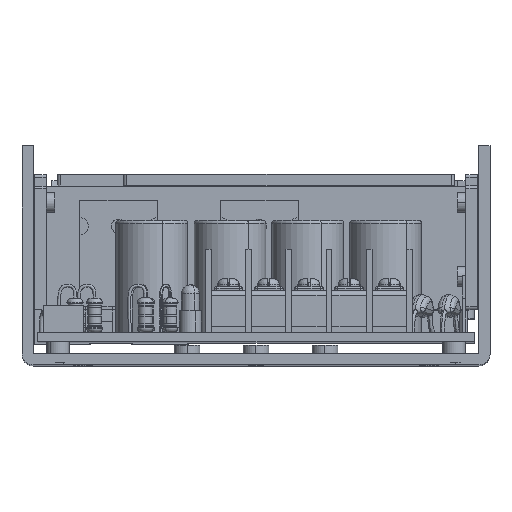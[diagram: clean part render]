
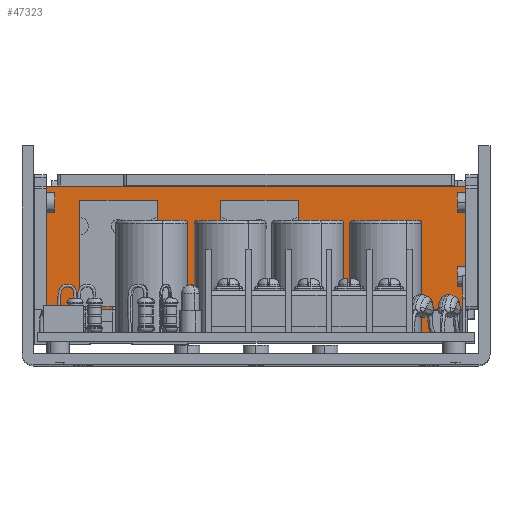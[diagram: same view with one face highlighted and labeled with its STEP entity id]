
A CAD part, top view. The second image highlights one B-rep face of the part: STEP entity #47323.
In plain terms, the highlighted planar face has unit normal (0, 0, 1).
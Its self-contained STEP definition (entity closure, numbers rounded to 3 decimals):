
#10051 = CARTESIAN_POINT ( 'NONE',  ( 7.721, 10.638, 31.2 ) ) ;
#10052 = DIRECTION ( 'NONE',  ( 0., 0., -1. ) ) ;
#10053 = DIRECTION ( 'NONE',  ( 0., 1., 0. ) ) ;
#10061 = CARTESIAN_POINT ( 'NONE',  ( -16.779, 10.638, 31.2 ) ) ;
#10062 = DIRECTION ( 'NONE',  ( 0., 0., -1. ) ) ;
#10063 = DIRECTION ( 'NONE',  ( 0., 1., 0. ) ) ;
#10142 = CARTESIAN_POINT ( 'NONE',  ( 43.621, 19.638, 31.2 ) ) ;
#10143 = DIRECTION ( 'NONE',  ( 0., -1., 0. ) ) ;
#10158 = CARTESIAN_POINT ( 'NONE',  ( -29.379, 19.638, 31.2 ) ) ;
#10159 = DIRECTION ( 'NONE',  ( 0., -1., 0. ) ) ;
#10209 = CARTESIAN_POINT ( 'NONE',  ( -29.379, -3.862, 31.2 ) ) ;
#10210 = DIRECTION ( 'NONE',  ( 1., 0., 0. ) ) ;
#10231 = CARTESIAN_POINT ( 'NONE',  ( -29.379, -3.862, 31.2 ) ) ;
#10232 = DIRECTION ( 'NONE',  ( 1., 0., 0. ) ) ;
#10360 = CARTESIAN_POINT ( 'NONE',  ( 7.721, 10.638, 31.2 ) ) ;
#10361 = DIRECTION ( 'NONE',  ( 0., 0., -1. ) ) ;
#10362 = DIRECTION ( 'NONE',  ( 0., 1., 0. ) ) ;
#10363 = CARTESIAN_POINT ( 'NONE',  ( -16.779, 10.638, 31.2 ) ) ;
#10364 = DIRECTION ( 'NONE',  ( 0., 0., -1. ) ) ;
#10365 = DIRECTION ( 'NONE',  ( 0., 1., 0. ) ) ;
#10366 = CARTESIAN_POINT ( 'NONE',  ( 35.302, -7.362, 31.2 ) ) ;
#10367 = DIRECTION ( 'NONE',  ( 0., 0., 1. ) ) ;
#10368 = DIRECTION ( 'NONE',  ( 0., 1., 0. ) ) ;
#10369 = CARTESIAN_POINT ( 'NONE',  ( 34.802, -7.862, 31.2 ) ) ;
#10370 = DIRECTION ( 'NONE',  ( 0., 1., 0. ) ) ;
#10371 = CARTESIAN_POINT ( 'NONE',  ( 34.802, -7.862, 31.2 ) ) ;
#10372 = DIRECTION ( 'NONE',  ( -1., 0., 0. ) ) ;
#10373 = CARTESIAN_POINT ( 'NONE',  ( 37.302, -7.362, 31.2 ) ) ;
#10374 = DIRECTION ( 'NONE',  ( 0., 0., 1. ) ) ;
#10375 = DIRECTION ( 'NONE',  ( 0., 1., 0. ) ) ;
#10376 = CARTESIAN_POINT ( 'NONE',  ( 37.802, -7.862, 31.2 ) ) ;
#10377 = DIRECTION ( 'NONE',  ( 0., 1., 0. ) ) ;
#10378 = CARTESIAN_POINT ( 'NONE',  ( -29.379, 17.638, 31.2 ) ) ;
#10379 = DIRECTION ( 'NONE',  ( -1., 0., 0. ) ) ;
#10380 = CARTESIAN_POINT ( 'NONE',  ( -27.379, 17.638, 31.2 ) ) ;
#10381 = DIRECTION ( 'NONE',  ( 1., 0., 0. ) ) ;
#10382 = CARTESIAN_POINT ( 'NONE',  ( -29.379, 17.638, 31.2 ) ) ;
#10383 = DIRECTION ( 'NONE',  ( -1., 0., 0. ) ) ;
#15793 = CARTESIAN_POINT ( 'NONE',  ( 7.721, 9.388, 31.2 ) ) ;
#15794 = CARTESIAN_POINT ( 'NONE',  ( 7.721, 11.888, 31.2 ) ) ;
#15797 = CARTESIAN_POINT ( 'NONE',  ( -16.779, 9.388, 31.2 ) ) ;
#15798 = CARTESIAN_POINT ( 'NONE',  ( -16.779, 11.888, 31.2 ) ) ;
#21575 = FACE_BOUND ( 'NONE', #74037, .T. ) ;
#21576 = FACE_BOUND ( 'NONE', #74038, .T. ) ;
#21577 = FACE_OUTER_BOUND ( 'NONE', #74039, .T. ) ;
#22645 = PLANE ( 'NONE',  #38752 ) ;
#22646 = CARTESIAN_POINT ( 'NONE',  ( -29.379, 19.638, 31.2 ) ) ;
#22647 = DIRECTION ( 'NONE',  ( 0., 0., -1. ) ) ;
#22648 = DIRECTION ( 'NONE',  ( 0., 1., 0. ) ) ;
#38752 = AXIS2_PLACEMENT_3D ( 'NONE', #22646, #22647, #22648 ) ;
#47323 = ADVANCED_FACE ( 'NONE', ( #21575, #21576, #21577 ), #22645, .F. ) ;
#61466 = CARTESIAN_POINT ( 'NONE',  ( 43.621, 17.638, 31.2 ) ) ;
#61468 = CARTESIAN_POINT ( 'NONE',  ( 43.621, -3.862, 31.2 ) ) ;
#61478 = CARTESIAN_POINT ( 'NONE',  ( -29.379, -3.862, 31.2 ) ) ;
#61480 = CARTESIAN_POINT ( 'NONE',  ( -29.379, 17.638, 31.2 ) ) ;
#61515 = CARTESIAN_POINT ( 'NONE',  ( 34.802, -3.862, 31.2 ) ) ;
#61521 = CARTESIAN_POINT ( 'NONE',  ( 37.802, -3.862, 31.2 ) ) ;
#61624 = CARTESIAN_POINT ( 'NONE',  ( 34.802, -7.362, 31.2 ) ) ;
#61626 = CARTESIAN_POINT ( 'NONE',  ( 35.302, -7.862, 31.2 ) ) ;
#61627 = CARTESIAN_POINT ( 'NONE',  ( 37.302, -7.862, 31.2 ) ) ;
#61629 = CARTESIAN_POINT ( 'NONE',  ( 37.802, -7.362, 31.2 ) ) ;
#61631 = CARTESIAN_POINT ( 'NONE',  ( 41.621, 17.638, 31.2 ) ) ;
#61633 = CARTESIAN_POINT ( 'NONE',  ( -27.379, 17.638, 31.2 ) ) ;
#65656 = VERTEX_POINT ( 'NONE', #61466 ) ;
#65658 = VERTEX_POINT ( 'NONE', #61468 ) ;
#65666 = VERTEX_POINT ( 'NONE', #61478 ) ;
#65668 = VERTEX_POINT ( 'NONE', #61480 ) ;
#65696 = VERTEX_POINT ( 'NONE', #61515 ) ;
#65702 = VERTEX_POINT ( 'NONE', #61521 ) ;
#65798 = VERTEX_POINT ( 'NONE', #61624 ) ;
#65800 = VERTEX_POINT ( 'NONE', #61626 ) ;
#65802 = VERTEX_POINT ( 'NONE', #61627 ) ;
#65804 = VERTEX_POINT ( 'NONE', #61629 ) ;
#65805 = VERTEX_POINT ( 'NONE', #61631 ) ;
#65807 = VERTEX_POINT ( 'NONE', #61633 ) ;
#74037 = EDGE_LOOP ( 'NONE', ( #125901, #125906 ) ) ;
#74038 = EDGE_LOOP ( 'NONE', ( #125899, #125908 ) ) ;
#74039 = EDGE_LOOP ( 'NONE', ( #125903, #125912, #125910, #125914, #125916, #125919, #125923, #125921, #125927, #125925, #125929, #125934 ) ) ;
#94038 = EDGE_CURVE ( 'NONE', #139923, #139927, #110670, .T. ) ;
#94042 = EDGE_CURVE ( 'NONE', #139935, #139937, #110676, .T. ) ;
#94076 = EDGE_CURVE ( 'NONE', #65656, #65658, #139215, .T. ) ;
#94083 = EDGE_CURVE ( 'NONE', #65668, #65666, #139226, .T. ) ;
#94105 = EDGE_CURVE ( 'NONE', #65666, #65696, #139255, .T. ) ;
#94115 = EDGE_CURVE ( 'NONE', #65702, #65658, #139271, .T. ) ;
#94168 = EDGE_CURVE ( 'NONE', #139927, #139923, #110838, .T. ) ;
#94169 = EDGE_CURVE ( 'NONE', #139937, #139935, #110763, .T. ) ;
#94170 = EDGE_CURVE ( 'NONE', #65798, #65800, #110827, .T. ) ;
#94171 = EDGE_CURVE ( 'NONE', #65798, #65696, #139331, .T. ) ;
#94172 = EDGE_CURVE ( 'NONE', #65802, #65800, #139334, .T. ) ;
#94173 = EDGE_CURVE ( 'NONE', #65802, #65804, #110850, .T. ) ;
#94174 = EDGE_CURVE ( 'NONE', #65804, #65702, #139335, .T. ) ;
#94175 = EDGE_CURVE ( 'NONE', #65656, #65805, #139338, .T. ) ;
#94176 = EDGE_CURVE ( 'NONE', #65807, #65805, #139339, .T. ) ;
#94177 = EDGE_CURVE ( 'NONE', #65807, #65668, #139342, .T. ) ;
#110670 = CIRCLE ( 'NONE', #110672, 1.25 ) ;
#110672 = AXIS2_PLACEMENT_3D ( 'NONE', #10051, #10052, #10053 ) ;
#110676 = CIRCLE ( 'NONE', #110678, 1.25 ) ;
#110678 = AXIS2_PLACEMENT_3D ( 'NONE', #10061, #10062, #10063 ) ;
#110724 = VECTOR ( 'NONE', #10143, 1000. ) ;
#110734 = VECTOR ( 'NONE', #10159, 1000. ) ;
#110761 = VECTOR ( 'NONE', #10210, 1000. ) ;
#110763 = CIRCLE ( 'NONE', #110853, 1.25 ) ;
#110773 = VECTOR ( 'NONE', #10232, 1000. ) ;
#110827 = CIRCLE ( 'NONE', #110855, 0.5 ) ;
#110838 = CIRCLE ( 'NONE', #110852, 1.25 ) ;
#110850 = CIRCLE ( 'NONE', #110859, 0.5 ) ;
#110852 = AXIS2_PLACEMENT_3D ( 'NONE', #10360, #10361, #10362 ) ;
#110853 = AXIS2_PLACEMENT_3D ( 'NONE', #10363, #10364, #10365 ) ;
#110855 = AXIS2_PLACEMENT_3D ( 'NONE', #10366, #10367, #10368 ) ;
#110856 = VECTOR ( 'NONE', #10370, 1000. ) ;
#110858 = VECTOR ( 'NONE', #10372, 1000. ) ;
#110859 = AXIS2_PLACEMENT_3D ( 'NONE', #10373, #10374, #10375 ) ;
#110860 = VECTOR ( 'NONE', #10377, 1000. ) ;
#110861 = VECTOR ( 'NONE', #10379, 1000. ) ;
#110862 = VECTOR ( 'NONE', #10381, 1000. ) ;
#110863 = VECTOR ( 'NONE', #10383, 1000. ) ;
#125899 = ORIENTED_EDGE ( 'NONE', *, *, #94169, .T. ) ;
#125901 = ORIENTED_EDGE ( 'NONE', *, *, #94168, .T. ) ;
#125903 = ORIENTED_EDGE ( 'NONE', *, *, #94171, .F. ) ;
#125906 = ORIENTED_EDGE ( 'NONE', *, *, #94038, .T. ) ;
#125908 = ORIENTED_EDGE ( 'NONE', *, *, #94042, .T. ) ;
#125910 = ORIENTED_EDGE ( 'NONE', *, *, #94172, .F. ) ;
#125912 = ORIENTED_EDGE ( 'NONE', *, *, #94170, .T. ) ;
#125914 = ORIENTED_EDGE ( 'NONE', *, *, #94173, .T. ) ;
#125916 = ORIENTED_EDGE ( 'NONE', *, *, #94174, .T. ) ;
#125919 = ORIENTED_EDGE ( 'NONE', *, *, #94115, .T. ) ;
#125921 = ORIENTED_EDGE ( 'NONE', *, *, #94175, .T. ) ;
#125923 = ORIENTED_EDGE ( 'NONE', *, *, #94076, .F. ) ;
#125925 = ORIENTED_EDGE ( 'NONE', *, *, #94177, .T. ) ;
#125927 = ORIENTED_EDGE ( 'NONE', *, *, #94176, .F. ) ;
#125929 = ORIENTED_EDGE ( 'NONE', *, *, #94083, .T. ) ;
#125934 = ORIENTED_EDGE ( 'NONE', *, *, #94105, .T. ) ;
#139215 = LINE ( 'NONE', #10142, #110724 ) ;
#139226 = LINE ( 'NONE', #10158, #110734 ) ;
#139255 = LINE ( 'NONE', #10209, #110761 ) ;
#139271 = LINE ( 'NONE', #10231, #110773 ) ;
#139331 = LINE ( 'NONE', #10369, #110856 ) ;
#139334 = LINE ( 'NONE', #10371, #110858 ) ;
#139335 = LINE ( 'NONE', #10376, #110860 ) ;
#139338 = LINE ( 'NONE', #10378, #110861 ) ;
#139339 = LINE ( 'NONE', #10380, #110862 ) ;
#139342 = LINE ( 'NONE', #10382, #110863 ) ;
#139923 = VERTEX_POINT ( 'NONE', #15793 ) ;
#139927 = VERTEX_POINT ( 'NONE', #15794 ) ;
#139935 = VERTEX_POINT ( 'NONE', #15797 ) ;
#139937 = VERTEX_POINT ( 'NONE', #15798 ) ;
